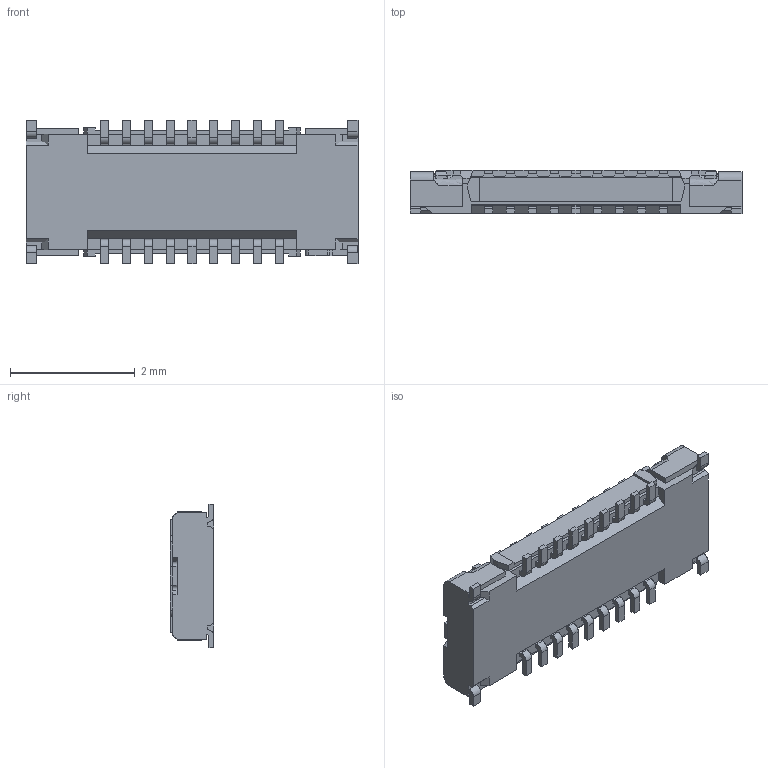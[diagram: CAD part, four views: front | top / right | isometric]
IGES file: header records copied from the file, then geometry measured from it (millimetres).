
Start section: SolidWorks IGES file using analytic representation for surfaces
Global section: file name: _exported\20708-018E-01+20709-018E-01C MATING IGES R1R2 ALL.IGS; native system: SolidWorks 2023; preprocessor: SolidWorks 2023; author: 83197; date: 250228.180523; units: millimetre
Bounding box: 5.32 x 0.7 x 2.3 mm (x, y, z)
Surface area: 41.4 mm2 (no closed solid volume)
Topology: 0 solids, 0 shells, 644 faces, 3956 edges, 3956 vertices
Faces by surface type: bspline 562, revolution 82
